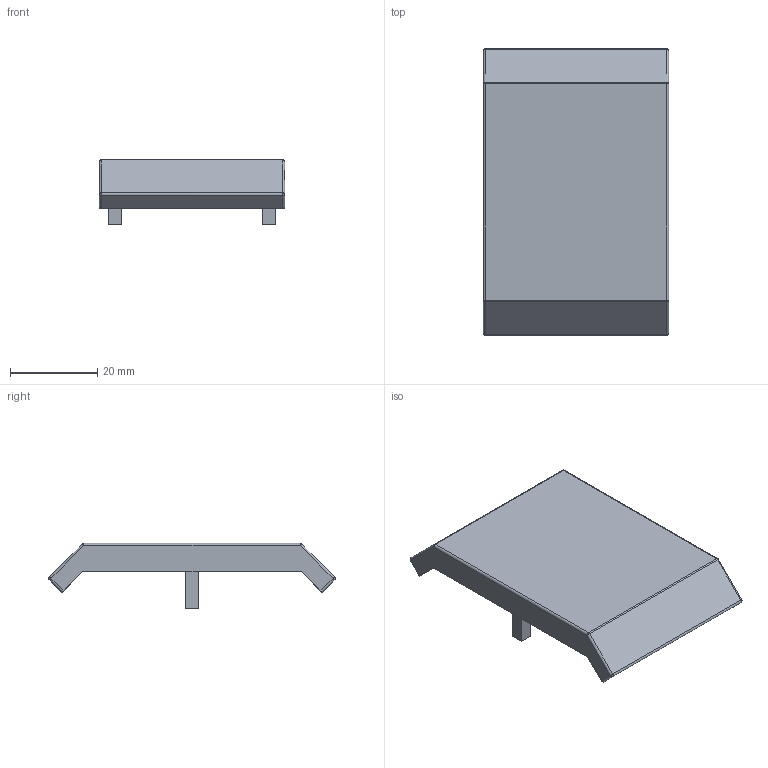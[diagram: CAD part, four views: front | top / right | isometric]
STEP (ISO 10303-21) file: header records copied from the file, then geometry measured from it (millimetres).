
FILE_DESCRIPTION (( 'STEP AP214' ), '1' );
FILE_NAME ('1036cap-GRAY.STEP', '2026-08-25T07:29:31', ( '' ), ( '' ), 'SwSTEP 2.0', 'SolidWorks 2022', '' );
FILE_SCHEMA (( 'AUTOMOTIVE_DESIGN' ));
Length unit declared in the file: millimetre
Products named in the file (1): 1036cap-GRAY
Bounding box: 42.5 x 65.69 x 15 mm (x, y, z)
Volume: 7832.7 mm3; surface area: 8064.4 mm2
Topology: 1 solids, 1 shells, 50 faces, 122 edges, 70 vertices
Faces by surface type: plane 28, cylinder 14, sphere 8
Entity records: 1408 total; most frequent: DIRECTION 244, CARTESIAN_POINT 233, ORIENTED_EDGE 228, EDGE_CURVE 114, VECTOR 86, LINE 86, AXIS2_PLACEMENT_3D 79, VERTEX_POINT 68
